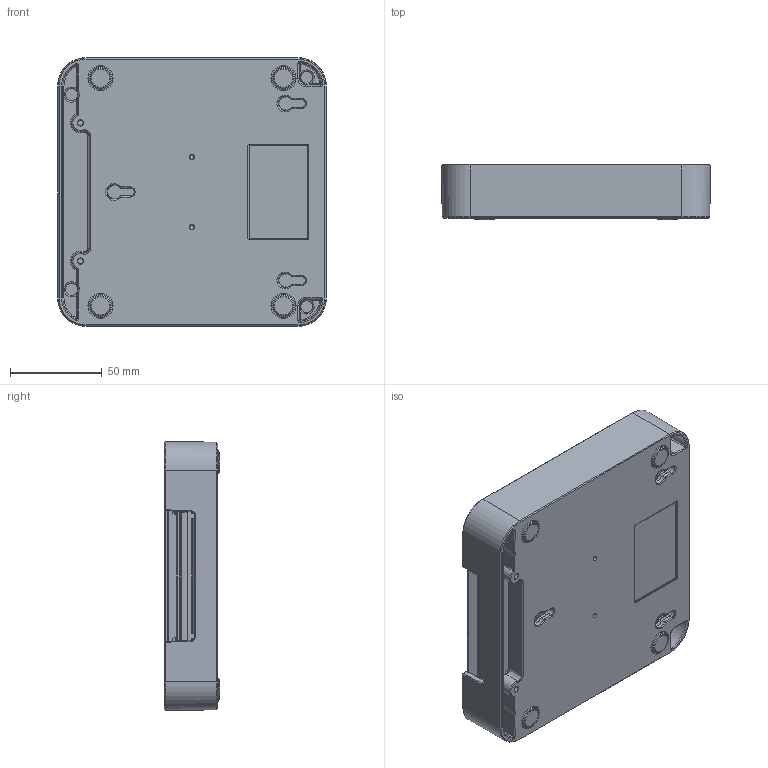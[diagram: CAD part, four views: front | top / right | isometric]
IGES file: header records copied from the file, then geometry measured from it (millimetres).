
Start section:  PTC IGES file: cu_scb-100a.igs
Global section: file name: cu_scb-100a.igs; native system: Creo Parametric by PTC Inc.; preprocessor: 2015380; author: hugyokog; organization: Unknown; date: 20170517.061312; units: inch
Bounding box: 146.55 x 30.28 x 146.55 mm (x, y, z)
Surface area: 124331.9 mm2 (no closed solid volume)
Topology: 0 solids, 0 shells, 2139 faces, 10292 edges, 10286 vertices
Faces by surface type: bspline 1511, revolution 626, extrusion 2
